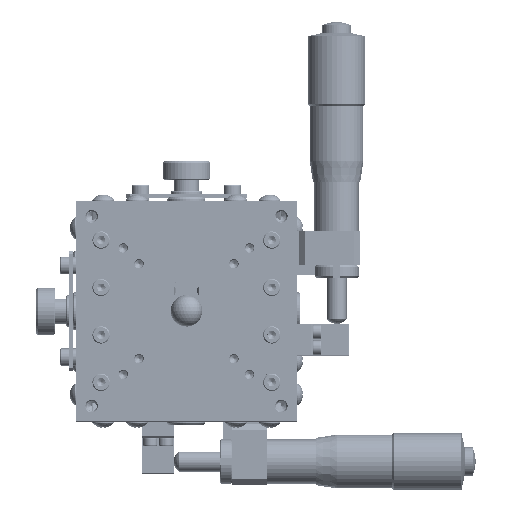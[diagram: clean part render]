
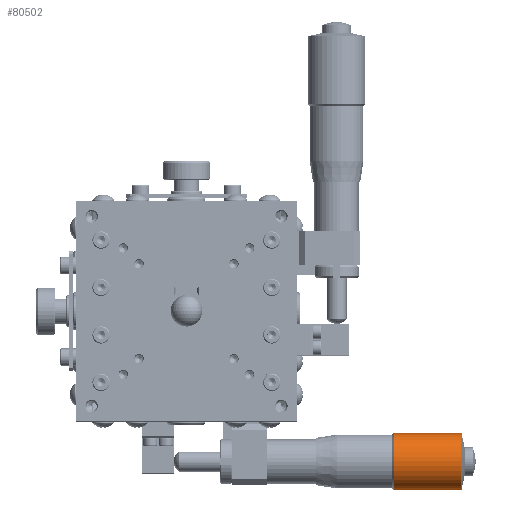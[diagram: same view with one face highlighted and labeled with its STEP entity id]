
A CAD part, top view. The second image highlights one B-rep face of the part: STEP entity #80502.
In plain terms, the highlighted cylindrical face has radius 9 mm (diameter 18 mm), a partial arc.
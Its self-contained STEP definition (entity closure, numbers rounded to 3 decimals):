
#57568 = CARTESIAN_POINT ( 'NONE',  ( 91., 9., 0. ) ) ;
#57571 = CARTESIAN_POINT ( 'NONE',  ( 91., -9., 0. ) ) ;
#57573 = DIRECTION ( 'NONE',  ( 0., -1., 0. ) ) ;
#57574 = DIRECTION ( 'NONE',  ( -1., 0., 0. ) ) ;
#57576 = CARTESIAN_POINT ( 'NONE',  ( 91., 0., 0. ) ) ;
#57577 = AXIS2_PLACEMENT_3D ( 'NONE', #57576, #57574, #57573 ) ;
#57581 = DIRECTION ( 'NONE',  ( 0., -1., 0. ) ) ;
#57583 = DIRECTION ( 'NONE',  ( -1., 0., 0. ) ) ;
#57585 = CARTESIAN_POINT ( 'NONE',  ( -2.669, 0., 0. ) ) ;
#57586 = AXIS2_PLACEMENT_3D ( 'NONE', #57585, #57583, #57581 ) ;
#57588 = CIRCLE ( 'NONE', #57577, 9. ) ;
#57592 = CYLINDRICAL_SURFACE ( 'NONE', #57586, 9. ) ;
#57594 = FACE_OUTER_BOUND ( 'NONE', #80500, .T. ) ;
#57899 = DIRECTION ( 'NONE',  ( -1., 0., 0. ) ) ;
#57900 = VECTOR ( 'NONE', #57899, 1000. ) ;
#57902 = CARTESIAN_POINT ( 'NONE',  ( -2.669, -9., 0. ) ) ;
#57904 = LINE ( 'NONE', #57902, #57900 ) ;
#57977 = DIRECTION ( 'NONE',  ( -1., 0., 0. ) ) ;
#57978 = VECTOR ( 'NONE', #57977, 1000. ) ;
#57980 = CARTESIAN_POINT ( 'NONE',  ( -2.669, 9., 0. ) ) ;
#57991 = LINE ( 'NONE', #57980, #57978 ) ;
#59943 = CARTESIAN_POINT ( 'NONE',  ( 69.5, 9., 0. ) ) ;
#60059 = DIRECTION ( 'NONE',  ( 0., -1., 0. ) ) ;
#60060 = DIRECTION ( 'NONE',  ( -1., 0., 0. ) ) ;
#60062 = CARTESIAN_POINT ( 'NONE',  ( 69.5, 0., 0. ) ) ;
#60064 = AXIS2_PLACEMENT_3D ( 'NONE', #60062, #60060, #60059 ) ;
#60065 = CIRCLE ( 'NONE', #60064, 9. ) ;
#60077 = CARTESIAN_POINT ( 'NONE',  ( 69.5, -9., 0. ) ) ;
#80500 = EDGE_LOOP ( 'NONE', ( #80507, #80650, #80600, #80614 ) ) ;
#80502 = ADVANCED_FACE ( 'NONE', ( #57594 ), #57592, .T. ) ;
#80504 = EDGE_CURVE ( 'NONE', #80506, #80508, #57588, .T. ) ;
#80506 = VERTEX_POINT ( 'NONE', #57571 ) ;
#80507 = ORIENTED_EDGE ( 'NONE', *, *, #80504, .T. ) ;
#80508 = VERTEX_POINT ( 'NONE', #57568 ) ;
#80600 = ORIENTED_EDGE ( 'NONE', *, *, #81476, .F. ) ;
#80614 = ORIENTED_EDGE ( 'NONE', *, *, #80616, .F. ) ;
#80616 = EDGE_CURVE ( 'NONE', #80506, #81474, #57904, .T. ) ;
#80648 = EDGE_CURVE ( 'NONE', #80508, #81472, #57991, .T. ) ;
#80650 = ORIENTED_EDGE ( 'NONE', *, *, #80648, .T. ) ;
#81472 = VERTEX_POINT ( 'NONE', #59943 ) ;
#81474 = VERTEX_POINT ( 'NONE', #60077 ) ;
#81476 = EDGE_CURVE ( 'NONE', #81474, #81472, #60065, .T. ) ;
